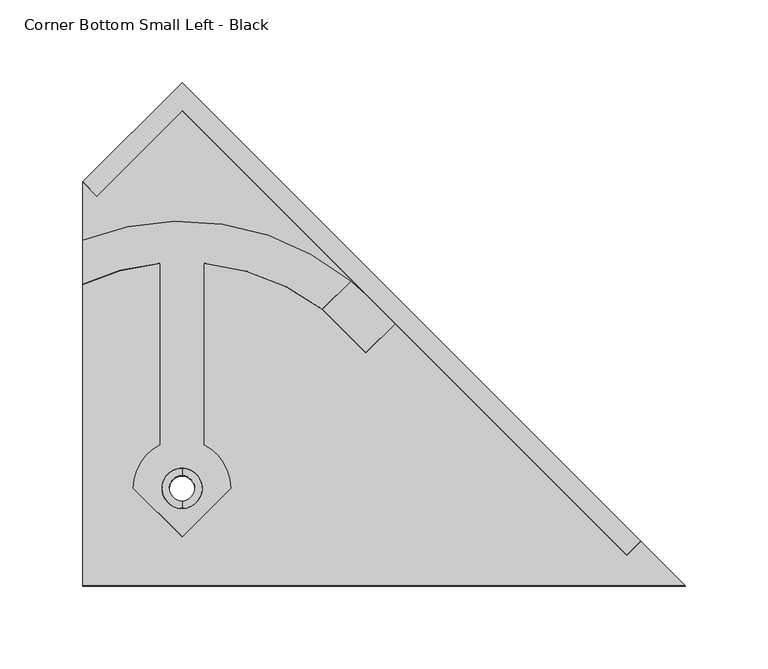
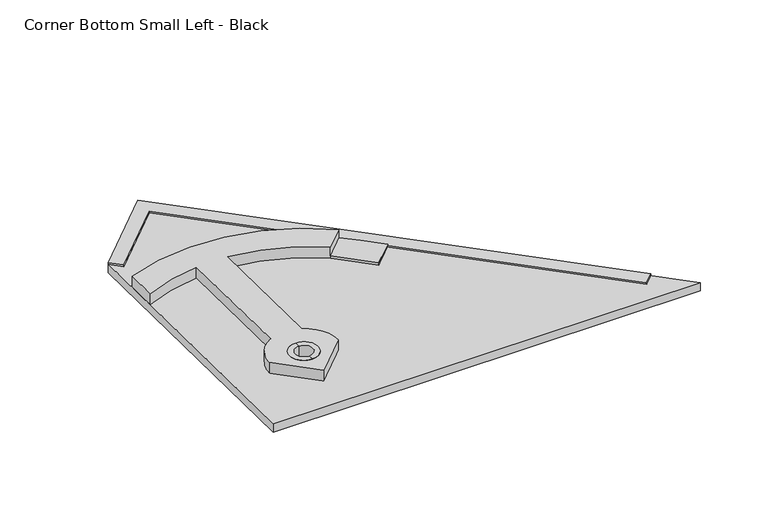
"""IFC4 building model written with IfcOpenShell, lengths in millimetres: proxy geometry, Roofing_Panels_SunStyle_Tile_Corner-Bottom-Small-Left : Corner Bottom Small Left - Black."""

from ifc_helpers import new_model, si_unit, point, frame, frame_2d, origin, place, context, project, spatial, polyline, circle_curve, trimmed, segment, composite_curve, outline, extrude, source, transform, mapped, element, save
from ifc_brep_helpers import plane_surface, cylinder_surface, revolved_surface, advanced_brep


def corner_bottom_small_left_black_798ab3c3(model_context):
    return source(origin(), model_context, "Body", "SolidModel", [
        extrude(outline(polyline([(1e-07, -12.0), (0.0, 0.0), (380.6066467, 0.0), (380.6168821, 72.9957231), (392.616882, 72.9940404), (392.6049642, -12.0), (1e-07, -12.0)])), frame((269.1487313, 328.9431541, 10.7946449), z_axis=(0.0, 0.016745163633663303, 0.9998597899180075), x_axis=(-0.7071563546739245, 0.7069580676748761, -0.011839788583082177)), (0.0, 0.0, 1.0), 1.5),
        advanced_brep(
        [(0.0, 361.8961325, 20.2441668), (0.0, 377.2289335, 19.9873805), (0.0, 381.7283021, 19.9120273), (0.0, 357.3967639, 20.31952), (0.0, 361.6282103, 4.2464102), (0.0, 376.9610105, 3.9896239), (0.0, 357.1288413, 4.3217634), (0.0, 381.4603795, 3.9142707)],
        [
            (0, 1, circle_curve(frame((0.0, 369.562533, 20.1157737), z_axis=(0.0, -0.016745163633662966, -0.9998597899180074), x_axis=(0.0, 0.9998597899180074, -0.016745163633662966)), 7.6674755)),
            (1, 2),
            (2, 3, circle_curve(frame((0.0, 369.562533, 20.1157737), z_axis=(0.0, 0.016745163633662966, 0.9998597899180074), x_axis=(0.0, 0.9998597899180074, -0.016745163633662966)), 12.1674751)),
            (3, 0),
            (1, 0, circle_curve(frame((0.0, 369.562533, 20.1157737), z_axis=(0.0, -0.016745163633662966, -0.9998597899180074), x_axis=(0.0, 0.9998597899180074, -0.016745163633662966)), 7.6674755)),
            (3, 2, circle_curve(frame((0.0, 369.562533, 20.1157737), z_axis=(0.0, 0.016745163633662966, 0.9998597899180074), x_axis=(0.0, 0.9998597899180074, -0.016745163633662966)), 12.1674751)),
            (4, 5, circle_curve(frame((0.0, 369.2946104, 4.118017), z_axis=(0.0, -0.016745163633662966, -0.9998597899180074), x_axis=(0.0, 0.9998597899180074, -0.016745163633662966)), 7.6674751)),
            (5, 1),
            (0, 4),
            (5, 4, circle_curve(frame((0.0, 369.2946104, 4.118017), z_axis=(0.0, -0.016745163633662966, -0.9998597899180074), x_axis=(0.0, 0.9998597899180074, -0.016745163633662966)), 7.6674751)),
            (6, 7, circle_curve(frame((0.0, 369.2946104, 4.118017), z_axis=(0.0, -0.016745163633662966, -0.9998597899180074), x_axis=(0.0, 0.9998597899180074, -0.016745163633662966)), 12.1674751)),
            (7, 5),
            (4, 6),
            (7, 6, circle_curve(frame((0.0, 369.2946104, 4.118017), z_axis=(0.0, -0.016745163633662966, -0.9998597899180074), x_axis=(0.0, 0.9998597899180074, -0.016745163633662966)), 12.1674751)),
            (2, 7),
            (6, 3),
        ],
        [
            plane_surface(frame((0.0, 369.562533, 20.1157737), z_axis=(0.0, 0.016745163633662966, 0.9998597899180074), x_axis=(0.0, 0.9998597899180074, -0.016745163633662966))),
            revolved_surface(polyline([(0.0, 377.2289330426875, 19.987380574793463), (0.0, 376.96101042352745, 3.989623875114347)]), (0.0, 369.562533, 20.1157737), (0.0, 0.016745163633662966, 0.9998597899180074)),
            plane_surface(frame((0.0, 369.2946104, 4.118017), z_axis=(0.0, -0.016745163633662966, -0.9998597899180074), x_axis=(0.0, 0.9998597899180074, -0.016745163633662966))),
            cylinder_surface(frame((0.0, 369.562533, 20.1157737), z_axis=(0.0, 0.016745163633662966, 0.9998597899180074), x_axis=(0.0, 0.9998597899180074, -0.016745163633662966)), 12.1674751),
        ],
        [
            (0, [[1, 2, 3, 4]]),
            (0, [[5, -4, 6, -2]]),
            (1, [[7, 8, -1, 9]]),
            (1, [[10, -9, -5, -8]]),
            (2, [[11, 12, -7, 13]]),
            (2, [[14, -13, -10, -12]]),
            (3, [[-3, 15, -11, 16]]),
            (3, [[-6, -16, -14, -15]]),
        ],
    ),
        extrude(outline(polyline([(245.4549696, 11.9996775), (-58.995288, -292.4932731), (-58.995288, 72.1037539), (185.3593204, 72.1037539), (245.4549696, 11.9996775)]), holes=[composite_curve([segment(trimmed(circle_curve(frame_2d((0.0, 12.0)), 12.0), [point((0.0, 24.0))], [point((0.0, 0.0))], True, "CARTESIAN"), True, "CONTINUOUS"), segment(trimmed(circle_curve(frame_2d((0.0, 12.0)), 12.0), [point((0.0, 0.0))], [point((0.0, 24.0))], True, "CARTESIAN"), True, "CONTINUOUS")], self_intersect=False)]), frame((12.0, 369.4369443, 2.6154229), z_axis=(0.0, 0.01674516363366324, 0.9998597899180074), x_axis=(0.0, 0.9998597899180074, -0.01674516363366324)), (0.0, 0.0, 1.0), 7.5),
        advanced_brep(
        [(-60.1037539, 519.6893101, 17.6015237), (-60.1037539, 492.9630774, 18.0491216), (-13.3, 505.8109871, 17.8339511), (-13.3, 395.9341043, 19.6741155), (-29.3894281, 369.7299846, 20.1129693), (0.0, 340.3446773, 20.6051), (29.3894281, 369.7299846, 20.1129693), (13.3, 395.9341043, 19.6741155), (13.3, 505.8109871, 17.8339511), (84.944396, 477.9190769, 18.3010712), (102.0275718, 494.9998575, 18.0150106), (-12.0, 369.7299846, 20.1129693), (12.0, 369.7299846, 20.1129693), (-60.1037539, 519.5218584, 7.6029258), (102.0275718, 494.8324058, 8.0164127), (114.2509691, 483.797483, 8.2012202), (128.9467134, 469.1058594, 8.4472683), (111.2690438, 451.4306685, 8.7432838), (84.9431983, 477.7528228, 8.3024532), (13.3, 505.6435355, 7.8353532), (13.3, 395.7666527, 9.6755176), (29.3894281, 369.562533, 10.1143714), (0.0, 340.1772257, 10.6065021), (-29.3894281, 369.562533, 10.1143714), (-13.3, 395.7666527, 9.6755176), (-13.3, 505.6435355, 7.8353532), (-60.1037539, 492.7956258, 8.0505237), (-12.0, 369.562533, 10.1143714), (12.0, 369.562533, 10.1143714), (102.0275718, 494.8742688, 10.5160622), (84.944396, 477.7934882, 10.8021227), (128.9467134, 469.1477223, 10.9469178), (114.2509691, 483.8393459, 10.7008697), (111.2690438, 451.4725314, 11.2429333)],
        [
            (0, 1),
            (1, 2, circle_curve(frame((0.0, 365.7229584, 20.180077), z_axis=(0.0, -0.01674516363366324, -0.9998597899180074), x_axis=(1.0, 0.0, 0.0)), 140.737522)),
            (2, 3),
            (3, 4, circle_curve(frame((0.0, 369.7299846, 20.1129693), z_axis=(0.0, 0.01674516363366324, 0.9998597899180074), x_axis=(1.0, 0.0, 0.0)), 29.3894281)),
            (4, 5),
            (5, 6),
            (6, 7, circle_curve(frame((0.0, 369.7299846, 20.1129693), z_axis=(0.0, 0.01674516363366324, 0.9998597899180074), x_axis=(1.0, 0.0, 0.0)), 29.3894281)),
            (7, 8),
            (8, 9, circle_curve(frame((0.0, 365.7229584, 20.180077), z_axis=(0.0, -0.01674516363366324, -0.9998597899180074), x_axis=(1.0, 0.0, 0.0)), 140.737522)),
            (9, 10),
            (10, 0, circle_curve(frame((0.0, 369.7299846, 20.1129693), z_axis=(0.0, 0.01674516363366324, 0.9998597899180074), x_axis=(1.0, 0.0, 0.0)), 161.57527)),
            (11, 12, circle_curve(frame((0.0, 369.7299846, 20.1129693), z_axis=(0.0, -0.01674516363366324, -0.9998597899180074), x_axis=(1.0, 0.0, 0.0)), 12.0)),
            (12, 11, circle_curve(frame((0.0, 369.7299846, 20.1129693), z_axis=(0.0, -0.01674516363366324, -0.9998597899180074), x_axis=(1.0, 0.0, 0.0)), 12.0)),
            (13, 14, circle_curve(frame((0.0, 369.562533, 10.1143714), z_axis=(0.0, -0.01674516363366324, -0.9998597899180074), x_axis=(1.0, 0.0, 0.0)), 161.57527)),
            (14, 15, circle_curve(frame((0.0, 369.562533, 10.1143714), z_axis=(0.0, -0.01674516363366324, -0.9998597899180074), x_axis=(1.0, 0.0, 0.0)), 161.57527)),
            (15, 16),
            (16, 17),
            (17, 18),
            (18, 19, circle_curve(frame((0.0, 365.5555068, 10.1814791), z_axis=(0.0, 0.01674516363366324, 0.9998597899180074), x_axis=(1.0, 0.0, 0.0)), 140.737522)),
            (19, 20),
            (20, 21, circle_curve(frame((0.0, 369.562533, 10.1143714), z_axis=(0.0, -0.01674516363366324, -0.9998597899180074), x_axis=(1.0, 0.0, 0.0)), 29.3894281)),
            (21, 22),
            (22, 23),
            (23, 24, circle_curve(frame((0.0, 369.562533, 10.1143714), z_axis=(0.0, -0.01674516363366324, -0.9998597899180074), x_axis=(1.0, 0.0, 0.0)), 29.3894281)),
            (24, 25),
            (25, 26, circle_curve(frame((0.0, 365.5555068, 10.1814791), z_axis=(0.0, 0.01674516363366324, 0.9998597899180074), x_axis=(1.0, 0.0, 0.0)), 140.737522)),
            (26, 13),
            (27, 28, circle_curve(frame((0.0, 369.562533, 10.1143714), z_axis=(0.0, 0.01674516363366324, 0.9998597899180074), x_axis=(1.0, 0.0, 0.0)), 12.0)),
            (28, 27, circle_curve(frame((0.0, 369.562533, 10.1143714), z_axis=(0.0, 0.01674516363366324, 0.9998597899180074), x_axis=(1.0, 0.0, 0.0)), 12.0)),
            (2, 25),
            (24, 3),
            (23, 4),
            (22, 5),
            (21, 6),
            (20, 7),
            (19, 8),
            (10, 29),
            (29, 14),
            (13, 0),
            (11, 27),
            (28, 12),
            (9, 30),
            (30, 29),
            (1, 26),
            (18, 30),
            (31, 32),
            (32, 29, circle_curve(frame((0.0, 369.6043959, 12.6140208), z_axis=(0.0, 0.01674516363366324, 0.9998597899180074), x_axis=(1.0, 0.0, 0.0)), 161.57527)),
            (30, 33),
            (33, 31),
            (31, 16),
            (15, 32),
            (33, 17),
        ],
        [
            plane_surface(frame((-60.1037539, 555.0633158, 17.0090971), z_axis=(0.0, 0.01674516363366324, 0.9998597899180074), x_axis=(0.0, -0.9998597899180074, 0.01674516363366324))),
            plane_surface(frame((-60.1037539, 554.8958642, 7.0104992), z_axis=(0.0, -0.01674516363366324, -0.9998597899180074), x_axis=(0.0, 0.9998597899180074, -0.01674516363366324))),
            plane_surface(frame((-13.3, 505.8109871, 17.8339511), z_axis=(-1.0000000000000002, 0.0, 0.0), x_axis=(0.0, -0.01674516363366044, -0.9998597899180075))),
            cylinder_surface(frame((0.0, 369.562533, 10.1143714), z_axis=(0.0, 0.01674516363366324, 0.9998597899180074), x_axis=(1.0, 0.0, 0.0)), 29.3894281),
            plane_surface(frame((-29.3894281, 369.7299846, 20.1129693), z_axis=(-0.7071067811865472, -0.7070076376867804, 0.011840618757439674), x_axis=(0.0, -0.01674516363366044, -0.9998597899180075))),
            plane_surface(frame((0.0, 340.3446773, 20.6051), z_axis=(0.7071067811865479, -0.7070076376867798, 0.01184061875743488), x_axis=(0.0, -0.016745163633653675, -0.9998597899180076))),
            plane_surface(frame((13.3, 395.9341043, 19.6741155), z_axis=(1.0000000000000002, 0.0, 0.0), x_axis=(0.0, -0.016745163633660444, -0.9998597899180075))),
            cylinder_surface(frame((0.0, 369.562533, 10.1143714), z_axis=(0.0, 0.01674516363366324, 0.9998597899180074), x_axis=(1.0, 0.0, 0.0)), 161.57527),
            revolved_surface(polyline([(12.0, 369.562533, 10.1143714), (12.0, 369.72998463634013, 20.112969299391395)]), (0.0, 369.562533, 10.1143714), (0.0, -0.01674516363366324, -0.9998597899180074)),
            plane_surface(frame((84.944396, 477.9190769, 18.3010712), z_axis=(0.7071067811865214, -0.7070076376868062, 0.011840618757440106), x_axis=(0.0, -0.01674516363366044, -0.9998597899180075))),
            revolved_surface(polyline([(140.737522, 365.5555067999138, 10.18147909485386), (140.737522, 365.722958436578, 20.18007701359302)]), (0.0, 365.5555068, 10.1814791), (0.0, -0.01674516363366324, -0.9998597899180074)),
            revolved_surface(polyline([(140.737522, 365.55550679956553, 10.181479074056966), (140.737522, 365.72295843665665, 20.180077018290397)]), (0.0, 365.5555068, 10.1814791), (0.0, -0.01674516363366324, -0.9998597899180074)),
            plane_surface(frame((-60.1037539, 519.6893101, 17.6015237), z_axis=(-1.0000000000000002, 0.0, 0.0), x_axis=(0.0, -0.01674516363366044, -0.9998597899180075))),
            plane_surface(frame((128.9467134, 469.1477223, 10.9469178), z_axis=(0.0, 0.01674516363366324, 0.9998597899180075), x_axis=(-0.7071563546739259, 0.7069580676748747, -0.011839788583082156))),
            plane_surface(frame((128.9467134, 469.1477223, 10.9469178), z_axis=(0.7070572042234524, 0.7070572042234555, -0.011841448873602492), x_axis=(0.0, -0.016745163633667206, -0.9998597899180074))),
            plane_surface(frame((111.2690438, 451.4725314, 11.2429333), z_axis=(0.7071067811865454, -0.7070076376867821, 0.011840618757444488), x_axis=(0.0, -0.016745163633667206, -0.9998597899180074))),
            plane_surface(frame((84.9431983, 477.7946858, 10.8021027), z_axis=(-0.7071067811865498, -0.7070076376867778, 0.011840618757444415), x_axis=(0.0, -0.016745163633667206, -0.9998597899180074))),
        ],
        [
            (0, [[1, 2, 3, 4, 5, 6, 7, 8, 9, 10, 11], [12, 13]]),
            (1, [[14, 15, 16, 17, 18, 19, 20, 21, 22, 23, 24, 25, 26, 27], [28, 29]]),
            (2, [[-3, 30, -25, 31]]),
            (3, [[-4, -31, -24, 32]]),
            (4, [[-5, -32, -23, 33]]),
            (5, [[-6, -33, -22, 34]]),
            (3, [[-7, -34, -21, 35]]),
            (6, [[-8, -35, -20, 36]]),
            (7, [[-11, 37, 38, -14, 39]]),
            (8, [[-12, 40, -29, 41]]),
            (8, [[-13, -41, -28, -40]]),
            (9, [[-10, 42, 43, -37]]),
            (10, [[-2, 44, -26, -30]]),
            (11, [[-9, -36, -19, 45, -42]]),
            (12, [[-1, -39, -27, -44]]),
            (13, [[46, 47, -43, 48, 49]]),
            (14, [[-46, 50, -16, 51]]),
            (15, [[-49, 52, -17, -50]]),
            (7, [[-47, -51, -15, -38]]),
            (16, [[-48, -45, -18, -52]]),
        ],
    ),
    ])


if __name__ == "__main__":
    model = new_model("IFC4")
    model_context = context("Model", 3, world=origin())
    ifc_project = project(units=[si_unit("LENGTHUNIT", "METRE", prefix="MILLI")], contexts=[model_context])
    site = spatial("IfcSite", under=ifc_project)
    building = spatial("IfcBuilding", under=site)
    placement = place(None, origin())
    corner_bottom_small_left_black_shape = corner_bottom_small_left_black_798ab3c3(model_context)
    element("IfcBuildingElementProxy", 1, Name="Roofing_Panels_SunStyle_Tile_Corner-Bottom-Small-Left : Corner Bottom Small Left - Black", ObjectType="Roofing_Panels_SunStyle_Tile_Corner-Bottom-Small-Left : Corner Bottom Small Left - Black", at=placement, inside=building, context=model_context, shape_type="MappedRepresentation", body=[
        mapped(corner_bottom_small_left_black_shape, transform((0.0, 0.0, 0.0), x_axis=(1.0, 0.0, 0.0), y_axis=(0.0, 1.0, 0.0), z_axis=(0.0, 0.0, 1.0))),
    ])
    save(model, "model.ifc")
